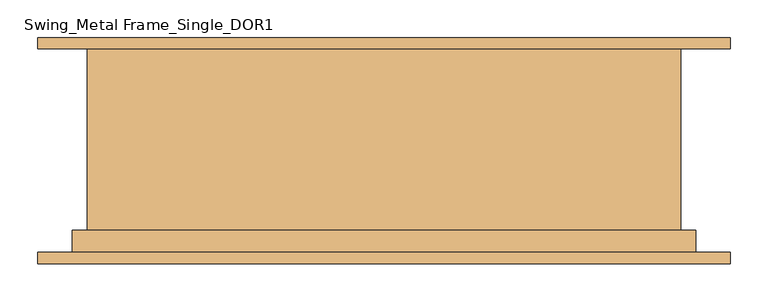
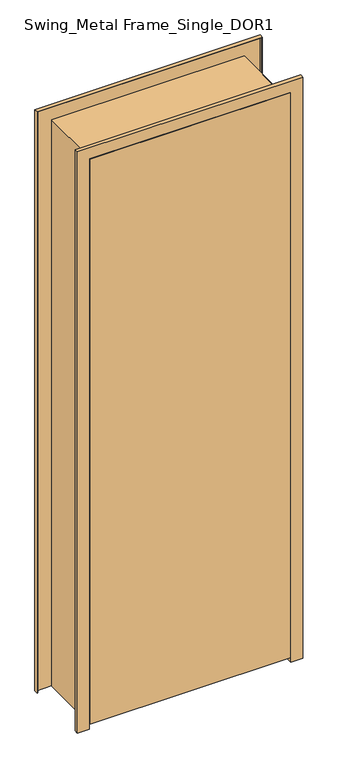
"""IFC4 building model written with IfcOpenShell, lengths in millimetres: door geometry, Swing_Metal Frame_Single_DOR1 : 2040h x 820 (2110x920 STUD)."""

from ifc_helpers import new_model, si_unit, frame, origin, place, context, project, spatial, polyline, outline, extrude, faceted_brep, source, transform, mapped, element, save


def swing_metal_frame_single_dor1_247f4e75(model_context):
    return source(origin(), model_context, "Body", "SolidModel", [
        extrude(outline(polyline([(410.0, -150.0), (-410.0, -150.0), (-410.0, -110.0), (410.0, -110.0), (410.0, -150.0)])), frame((0.0, 0.0, 20.0), z_axis=(0.0, 0.0, 1.0), x_axis=(1.0, 0.0, 0.0)), (0.0, 0.0, 1.0), 2440.0),
        faceted_brep([(-460.0, 150.0, 0.0), (-392.0, 150.0, 0.0), (-392.0, -108.0, 0.0), (-412.0, -108.0, 0.0), (-412.0, -150.0, 0.0), (-460.0, -150.0, 0.0), (-460.0, -135.0, 0.0), (-458.0, -135.0, 0.0), (-458.0, -148.0, 0.0), (-414.0, -148.0, 0.0), (-414.0, -106.0, 0.0), (-394.0, -106.0, 0.0), (-394.0, 148.0, 0.0), (-458.0, 148.0, 0.0), (-458.0, 135.0, 0.0), (-460.0, 135.0, 0.0), (-460.0, 135.0, 2510.0), (-460.0, 150.0, 2510.0), (-458.0, 135.0, 2508.0), (458.0, 135.0, 2508.0), (458.0, 135.0, 0.0), (460.0, 135.0, 0.0), (460.0, 135.0, 2510.0), (-458.0, 148.0, 2508.0), (-394.0, 148.0, 2444.0), (394.0, 148.0, 2444.0), (394.0, 148.0, 0.0), (458.0, 148.0, 0.0), (458.0, 148.0, 2508.0), (-394.0, -106.0, 2444.0), (-414.0, -106.0, 2464.0), (414.0, -106.0, 2464.0), (414.0, -106.0, 0.0), (394.0, -106.0, 0.0), (394.0, -106.0, 2444.0), (-414.0, -148.0, 2464.0), (-458.0, -148.0, 2508.0), (458.0, -148.0, 2508.0), (458.0, -148.0, 0.0), (414.0, -148.0, 0.0), (414.0, -148.0, 2464.0), (-458.0, -135.0, 2508.0), (-460.0, -135.0, 2510.0), (460.0, -135.0, 2510.0), (460.0, -135.0, 0.0), (458.0, -135.0, 0.0), (458.0, -135.0, 2508.0), (-460.0, -150.0, 2510.0), (-412.0, -150.0, 2462.0), (412.0, -150.0, 2462.0), (412.0, -150.0, 0.0), (460.0, -150.0, 0.0), (460.0, -150.0, 2510.0), (-412.0, -108.0, 2462.0), (-392.0, -108.0, 2442.0), (392.0, -108.0, 2442.0), (392.0, -108.0, 0.0), (412.0, -108.0, 0.0), (412.0, -108.0, 2462.0), (-392.0, 150.0, 2442.0), (460.0, 150.0, 2510.0), (460.0, 150.0, 0.0), (392.0, 150.0, 0.0), (392.0, 150.0, 2442.0)], [[[0, 1, 2, 3, 4, 5, 6, 7, 8, 9, 10, 11, 12, 13, 14, 15]], [[15, 16, 17, 0]], [[14, 18, 19, 20, 21, 22, 16, 15]], [[13, 23, 18, 14]], [[12, 24, 25, 26, 27, 28, 23, 13]], [[11, 29, 24, 12]], [[10, 30, 31, 32, 33, 34, 29, 11]], [[9, 35, 30, 10]], [[8, 36, 37, 38, 39, 40, 35, 9]], [[7, 41, 36, 8]], [[6, 42, 43, 44, 45, 46, 41, 7]], [[5, 47, 42, 6]], [[4, 48, 49, 50, 51, 52, 47, 5]], [[3, 53, 48, 4]], [[2, 54, 55, 56, 57, 58, 53, 3]], [[1, 59, 54, 2]], [[0, 17, 60, 61, 62, 63, 59, 1]], [[22, 21, 61, 60]], [[61, 21, 20, 27, 26, 33, 32, 39, 38, 45, 44, 51, 50, 57, 56, 62]], [[28, 27, 20, 19]], [[34, 33, 26, 25]], [[40, 39, 32, 31]], [[46, 45, 38, 37]], [[52, 51, 44, 43]], [[58, 57, 50, 49]], [[63, 62, 56, 55]], [[16, 22, 60, 17]], [[23, 28, 19, 18]], [[29, 34, 25, 24]], [[35, 40, 31, 30]], [[41, 46, 37, 36]], [[47, 52, 43, 42]], [[53, 58, 49, 48]], [[59, 63, 55, 54]]]),
    ])


if __name__ == "__main__":
    model = new_model("IFC4")
    model_context = context("Model", 3, world=origin())
    ifc_project = project(units=[si_unit("LENGTHUNIT", "METRE", prefix="MILLI")], contexts=[model_context])
    site = spatial("IfcSite", under=ifc_project)
    building = spatial("IfcBuilding", under=site)
    placement = place(None, origin())
    swing_metal_frame_single_dor1_shape = swing_metal_frame_single_dor1_247f4e75(model_context)
    element("IfcDoor", 1, ObjectType="Swing_Metal Frame_Single_DOR1 : 2040h x 820 (2110x920 STUD)", at=placement, inside=building, context=model_context, shape_type="MappedRepresentation", body=[
        mapped(swing_metal_frame_single_dor1_shape, transform((0.0, 0.0, 0.0), x_axis=(1.0, 0.0, 0.0), y_axis=(0.0, 1.0, 0.0), z_axis=(0.0, 0.0, 1.0))),
    ])
    save(model, "model.ifc")
